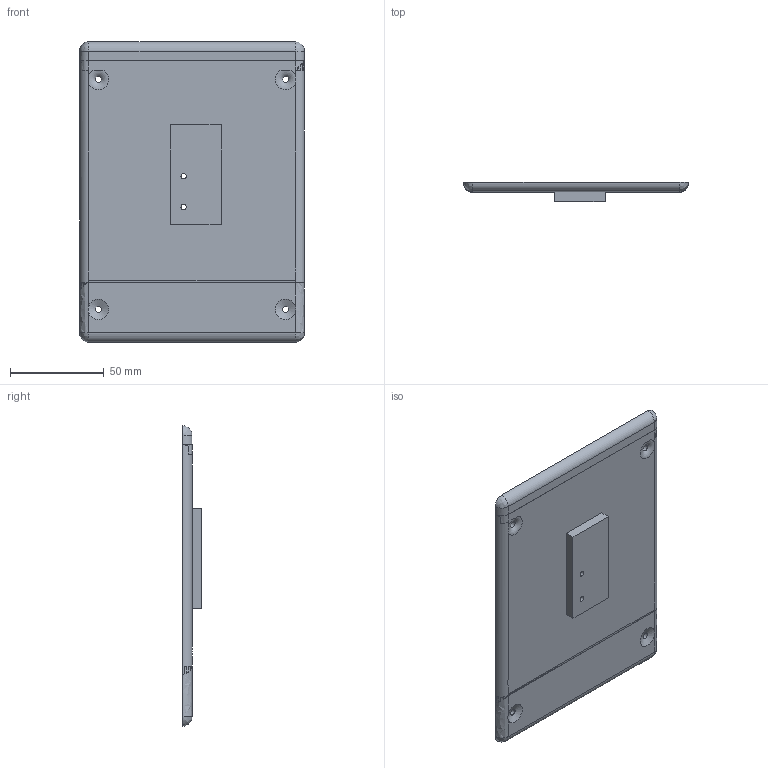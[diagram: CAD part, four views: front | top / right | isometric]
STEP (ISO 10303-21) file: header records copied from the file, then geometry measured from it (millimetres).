
FILE_DESCRIPTION(/* description */ (''),/* implementation_level */ '2;1');
FILE_NAME(/* name */ 'EncoderSide.step',/* time_stamp */ '2024-08-31T17:07:14-04:00',/* author */ (''),/* organization */ (''),/* preprocessor_version */ 'ST-DEVELOPER v20',/* originating_system */ 'Autodesk Translation Framework v13.14.0.145',/* authorisation */ '');
FILE_SCHEMA (('AUTOMOTIVE_DESIGN { 1 0 10303 214 3 1 1 }'));
Length unit declared in the file: millimetre
Products named in the file (1): Encoder_Side
Bounding box: 120 x 10 x 160.36 mm (x, y, z)
Volume: 93742.7 mm3; surface area: 43046.6 mm2
Topology: 2 solids, 2 shells, 70 faces, 211 edges, 139 vertices
Faces by surface type: plane 36, cylinder 20, bspline 10, torus 2, cone 2
Full cylindrical faces by diameter (mm): 2.85 x1, 2.851 x1, 3.454 x4
Entity records: 4673 total; most frequent: CARTESIAN_POINT 2866, ORIENTED_EDGE 414, DIRECTION 321, EDGE_CURVE 207, VERTEX_POINT 139, AXIS2_PLACEMENT_3D 111, LINE 99, VECTOR 99
